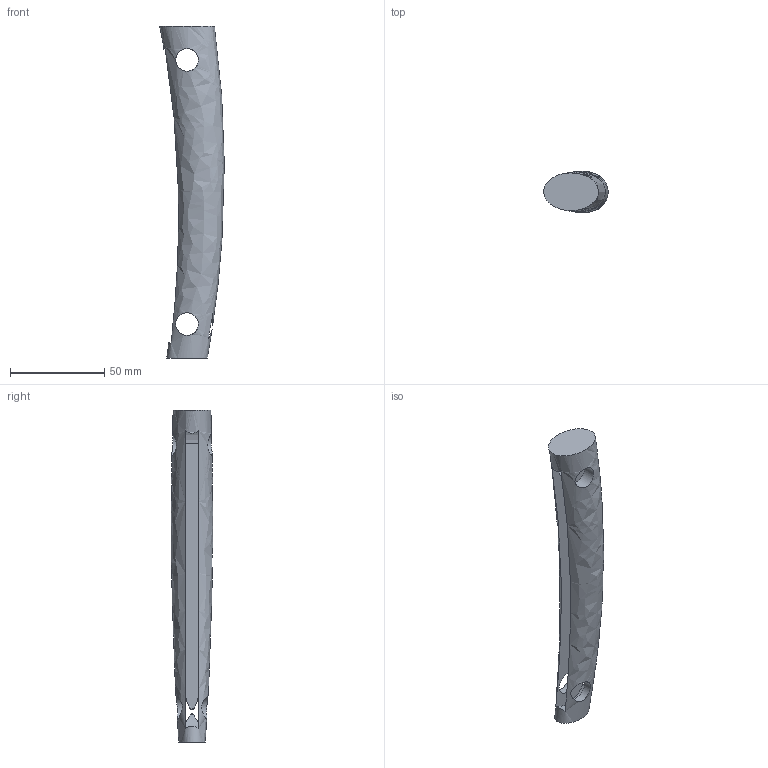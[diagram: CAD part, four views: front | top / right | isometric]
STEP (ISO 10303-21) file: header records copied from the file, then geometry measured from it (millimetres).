
FILE_DESCRIPTION(('Open CASCADE Model'),'2;1');
FILE_NAME('Q4-204','2026-10-05T14:37:39',('Author'),('Open CASCADE'), 'Open CASCADE STEP processor 8.0','build123d','Unknown');
FILE_SCHEMA(('AUTOMOTIVE_DESIGN { 1 0 10303 214 1 1 1 1 }'));
Length unit declared in the file: millimetre
Products named in the file (1): Q4-204
Bounding box: 34.26 x 22.06 x 176 mm (x, y, z)
Volume: 44109 mm3; surface area: 19835.2 mm2
Topology: 1 solids, 1 shells, 13 faces, 36 edges, 24 vertices
Faces by surface type: cylinder 7, plane 5, bspline 1
Full cylindrical faces by diameter (mm): 12 x4
Entity records: 3458 total; most frequent: CARTESIAN_POINT 2799, DIRECTION 88, ORIENTED_EDGE 72, PCURVE 72, DEFINITIONAL_REPRESENTATION 72, B_SPLINE_CURVE_WITH_KNOTS 54, LINE 38, VECTOR 38
